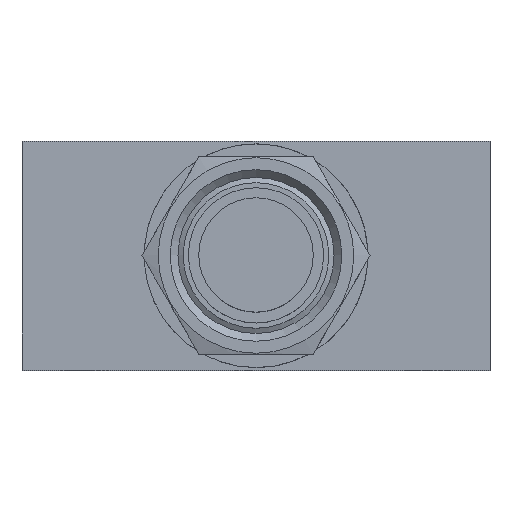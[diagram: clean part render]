
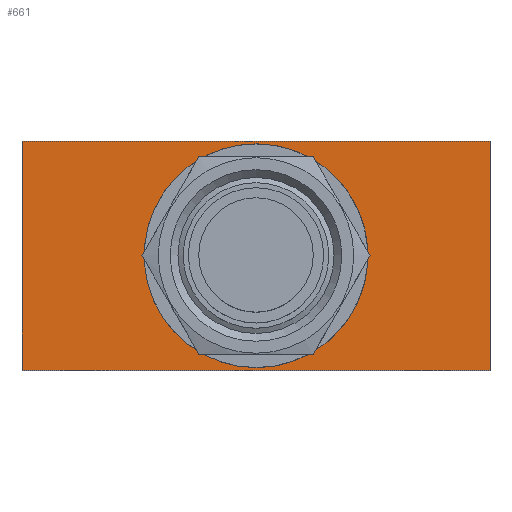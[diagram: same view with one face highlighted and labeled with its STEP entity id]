
A CAD part, top view. The second image highlights one B-rep face of the part: STEP entity #661.
In plain terms, the highlighted planar face has unit normal (0, 0, 1).
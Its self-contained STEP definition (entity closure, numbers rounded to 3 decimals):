
#45=LINE('',#1073,#71);
#49=LINE('',#1080,#75);
#52=LINE('',#1086,#78);
#54=LINE('',#1089,#80);
#71=VECTOR('',#895,22.);
#75=VECTOR('',#901,45.);
#78=VECTOR('',#906,22.);
#80=VECTOR('',#910,45.);
#104=PLANE('',#742);
#163=FACE_BOUND('',#268,.T.);
#164=FACE_BOUND('',#269,.T.);
#268=EDGE_LOOP('',(#547));
#269=EDGE_LOOP('',(#548,#549,#550,#551));
#319=CIRCLE('',#737,10.75);
#358=VERTEX_POINT('',#1064);
#361=VERTEX_POINT('',#1070);
#362=VERTEX_POINT('',#1072);
#364=VERTEX_POINT('',#1078);
#366=VERTEX_POINT('',#1084);
#421=EDGE_CURVE('',#358,#358,#319,.T.);
#424=EDGE_CURVE('',#361,#362,#45,.T.);
#428=EDGE_CURVE('',#364,#361,#49,.T.);
#431=EDGE_CURVE('',#366,#364,#52,.T.);
#433=EDGE_CURVE('',#362,#366,#54,.T.);
#547=ORIENTED_EDGE('',*,*,#421,.T.);
#548=ORIENTED_EDGE('',*,*,#433,.F.);
#549=ORIENTED_EDGE('',*,*,#424,.F.);
#550=ORIENTED_EDGE('',*,*,#428,.F.);
#551=ORIENTED_EDGE('',*,*,#431,.F.);
#661=ADVANCED_FACE('',(#163,#164),#104,.T.);
#737=AXIS2_PLACEMENT_3D('',#1065,#889,#890);
#742=AXIS2_PLACEMENT_3D('',#1090,#911,#912);
#889=DIRECTION('center_axis',(0.,0.,-1.));
#890=DIRECTION('ref_axis',(-1.,0.,0.));
#895=DIRECTION('',(0.,-1.,0.));
#901=DIRECTION('',(1.,0.,0.));
#906=DIRECTION('',(0.,1.,0.));
#910=DIRECTION('',(-1.,0.,0.));
#911=DIRECTION('center_axis',(0.,0.,1.));
#912=DIRECTION('ref_axis',(1.,0.,0.));
#1064=CARTESIAN_POINT('',(10.75,0.,0.));
#1065=CARTESIAN_POINT('Origin',(0.,0.,0.));
#1070=CARTESIAN_POINT('',(22.5,11.,0.));
#1072=CARTESIAN_POINT('',(22.5,-11.,0.));
#1073=CARTESIAN_POINT('',(22.5,11.,0.));
#1078=CARTESIAN_POINT('',(-22.5,11.,0.));
#1080=CARTESIAN_POINT('',(-22.5,11.,0.));
#1084=CARTESIAN_POINT('',(-22.5,-11.,0.));
#1086=CARTESIAN_POINT('',(-22.5,-11.,0.));
#1089=CARTESIAN_POINT('',(22.5,-11.,0.));
#1090=CARTESIAN_POINT('Origin',(0.,0.,
0.));
